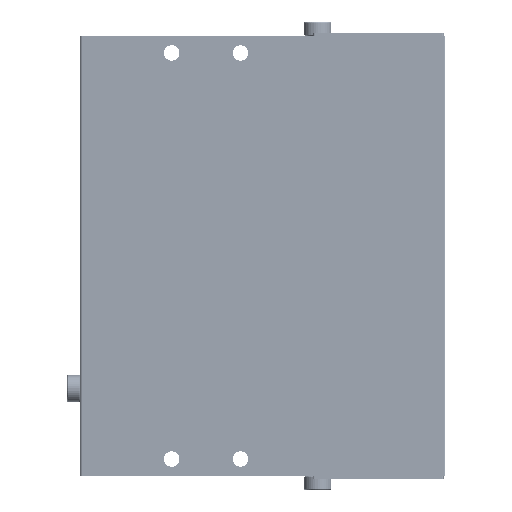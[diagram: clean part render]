
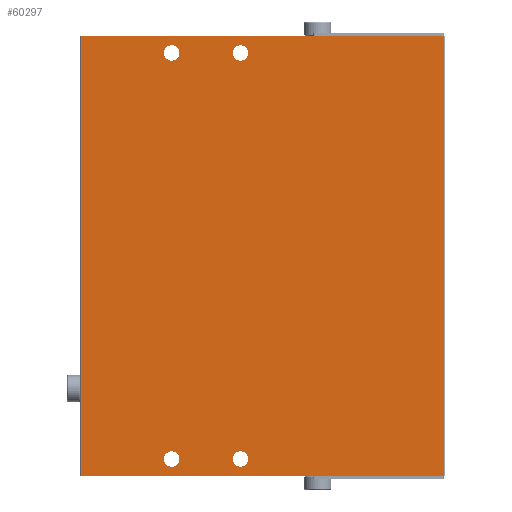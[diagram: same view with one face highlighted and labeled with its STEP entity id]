
A CAD part, front view. The second image highlights one B-rep face of the part: STEP entity #60297.
In plain terms, the highlighted planar face has unit normal (0, -1, 0).
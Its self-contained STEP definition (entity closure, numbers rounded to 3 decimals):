
#47031=DIRECTION('',(1.,0.,0.));
#47032=VECTOR('',#47031,105.);
#47033=CARTESIAN_POINT('',(-52.5,-16.9,128.));
#47034=LINE('',#47033,#47032);
#48703=DIRECTION('',(-1.,0.,0.));
#48704=VECTOR('',#48703,105.);
#48705=CARTESIAN_POINT('',(52.5,-16.9,0.));
#48706=LINE('',#48705,#48704);
#48899=DIRECTION('',(0.,0.,-1.));
#48900=VECTOR('',#48899,128.);
#48901=CARTESIAN_POINT('',(52.5,-16.9,128.));
#48902=LINE('',#48901,#48900);
#48903=CARTESIAN_POINT('',(-26.5,-16.9,123.));
#48904=DIRECTION('',(0.,1.,0.));
#48905=DIRECTION('',(0.,0.,1.));
#48906=AXIS2_PLACEMENT_3D('',#48903,#48904,#48905);
#48908=CARTESIAN_POINT('',(-26.5,-16.9,123.));
#48909=DIRECTION('',(0.,1.,0.));
#48910=DIRECTION('',(0.,0.,-1.));
#48911=AXIS2_PLACEMENT_3D('',#48908,#48909,#48910);
#48913=CARTESIAN_POINT('',(-6.5,-16.9,123.));
#48914=DIRECTION('',(0.,1.,0.));
#48915=DIRECTION('',(0.,0.,1.));
#48916=AXIS2_PLACEMENT_3D('',#48913,#48914,#48915);
#48918=CARTESIAN_POINT('',(-6.5,-16.9,123.));
#48919=DIRECTION('',(0.,1.,0.));
#48920=DIRECTION('',(0.,0.,-1.));
#48921=AXIS2_PLACEMENT_3D('',#48918,#48919,#48920);
#48923=CARTESIAN_POINT('',(-26.5,-16.9,5.));
#48924=DIRECTION('',(0.,1.,0.));
#48925=DIRECTION('',(0.,0.,-1.));
#48926=AXIS2_PLACEMENT_3D('',#48923,#48924,#48925);
#48928=CARTESIAN_POINT('',(-26.5,-16.9,5.));
#48929=DIRECTION('',(0.,1.,0.));
#48930=DIRECTION('',(0.,0.,1.));
#48931=AXIS2_PLACEMENT_3D('',#48928,#48929,#48930);
#48933=CARTESIAN_POINT('',(-6.5,-16.9,5.));
#48934=DIRECTION('',(0.,1.,0.));
#48935=DIRECTION('',(0.,0.,-1.));
#48936=AXIS2_PLACEMENT_3D('',#48933,#48934,#48935);
#48938=CARTESIAN_POINT('',(-6.5,-16.9,5.));
#48939=DIRECTION('',(0.,1.,0.));
#48940=DIRECTION('',(0.,0.,1.));
#48941=AXIS2_PLACEMENT_3D('',#48938,#48939,#48940);
#48947=DIRECTION('',(0.,0.,1.));
#48948=VECTOR('',#48947,128.);
#48949=CARTESIAN_POINT('',(-52.5,-16.9,0.));
#48950=LINE('',#48949,#48948);
#57518=CARTESIAN_POINT('',(52.5,-16.9,0.));
#57519=VERTEX_POINT('',#57518);
#57520=CARTESIAN_POINT('',(-52.5,-16.9,0.));
#57522=VERTEX_POINT('',#57520);
#57672=CARTESIAN_POINT('',(-26.5,-16.9,125.25));
#57674=VERTEX_POINT('',#57672);
#57806=CARTESIAN_POINT('',(-26.5,-16.9,120.75));
#57808=VERTEX_POINT('',#57806);
#57860=CARTESIAN_POINT('',(-26.5,-16.9,7.25));
#57862=VERTEX_POINT('',#57860);
#58005=CARTESIAN_POINT('',(-26.5,-16.9,2.75));
#58007=VERTEX_POINT('',#58005);
#58183=CARTESIAN_POINT('',(52.5,-16.9,128.));
#58184=VERTEX_POINT('',#58183);
#58517=CARTESIAN_POINT('',(-52.5,-16.9,128.));
#58518=VERTEX_POINT('',#58517);
#58534=CARTESIAN_POINT('',(-6.5,-16.9,2.75));
#58535=CARTESIAN_POINT('',(-6.5,-16.9,7.25));
#58536=VERTEX_POINT('',#58534);
#58537=VERTEX_POINT('',#58535);
#58655=CARTESIAN_POINT('',(-6.5,-16.9,120.75));
#58656=VERTEX_POINT('',#58655);
#58803=CARTESIAN_POINT('',(-6.5,-16.9,125.25));
#58804=VERTEX_POINT('',#58803);
#60261=CARTESIAN_POINT('',(-53.,-16.9,0.));
#60262=DIRECTION('',(0.,-1.,0.));
#60263=DIRECTION('',(0.,0.,-1.));
#60264=AXIS2_PLACEMENT_3D('',#60261,#60262,#60263);
#60265=PLANE('',#60264);
#60267=ORIENTED_EDGE('',*,*,#60266,.T.);
#60268=ORIENTED_EDGE('',*,*,#59115,.T.);
#60269=ORIENTED_EDGE('',*,*,#60256,.T.);
#60270=ORIENTED_EDGE('',*,*,#60127,.T.);
#60271=EDGE_LOOP('',(#60267,#60268,#60269,#60270));
#60272=FACE_OUTER_BOUND('',#60271,.F.);
#60274=ORIENTED_EDGE('',*,*,#60273,.F.);
#60276=ORIENTED_EDGE('',*,*,#60275,.F.);
#60277=EDGE_LOOP('',(#60274,#60276));
#60278=FACE_BOUND('',#60277,.F.);
#60280=ORIENTED_EDGE('',*,*,#60279,.F.);
#60282=ORIENTED_EDGE('',*,*,#60281,.F.);
#60283=EDGE_LOOP('',(#60280,#60282));
#60284=FACE_BOUND('',#60283,.F.);
#60286=ORIENTED_EDGE('',*,*,#60285,.F.);
#60288=ORIENTED_EDGE('',*,*,#60287,.F.);
#60289=EDGE_LOOP('',(#60286,#60288));
#60290=FACE_BOUND('',#60289,.F.);
#60292=ORIENTED_EDGE('',*,*,#60291,.F.);
#60294=ORIENTED_EDGE('',*,*,#60293,.F.);
#60295=EDGE_LOOP('',(#60292,#60294));
#60296=FACE_BOUND('',#60295,.F.);
#60297=ADVANCED_FACE('',(#60272,#60278,#60284,#60290,#60296),#60265,.T.);
#48907=CIRCLE('',#48906,2.25);
#48912=CIRCLE('',#48911,2.25);
#48917=CIRCLE('',#48916,2.25);
#48922=CIRCLE('',#48921,2.25);
#48927=CIRCLE('',#48926,2.25);
#48932=CIRCLE('',#48931,2.25);
#48937=CIRCLE('',#48936,2.25);
#48942=CIRCLE('',#48941,2.25);
#59115=EDGE_CURVE('',#58518,#58184,#47034,.T.);
#60127=EDGE_CURVE('',#57519,#57522,#48706,.T.);
#60256=EDGE_CURVE('',#58184,#57519,#48902,.T.);
#60266=EDGE_CURVE('',#57522,#58518,#48950,.T.);
#60273=EDGE_CURVE('',#57674,#57808,#48907,.T.);
#60275=EDGE_CURVE('',#57808,#57674,#48912,.T.);
#60279=EDGE_CURVE('',#58804,#58656,#48917,.T.);
#60281=EDGE_CURVE('',#58656,#58804,#48922,.T.);
#60285=EDGE_CURVE('',#58007,#57862,#48927,.T.);
#60287=EDGE_CURVE('',#57862,#58007,#48932,.T.);
#60291=EDGE_CURVE('',#58536,#58537,#48937,.T.);
#60293=EDGE_CURVE('',#58537,#58536,#48942,.T.);
